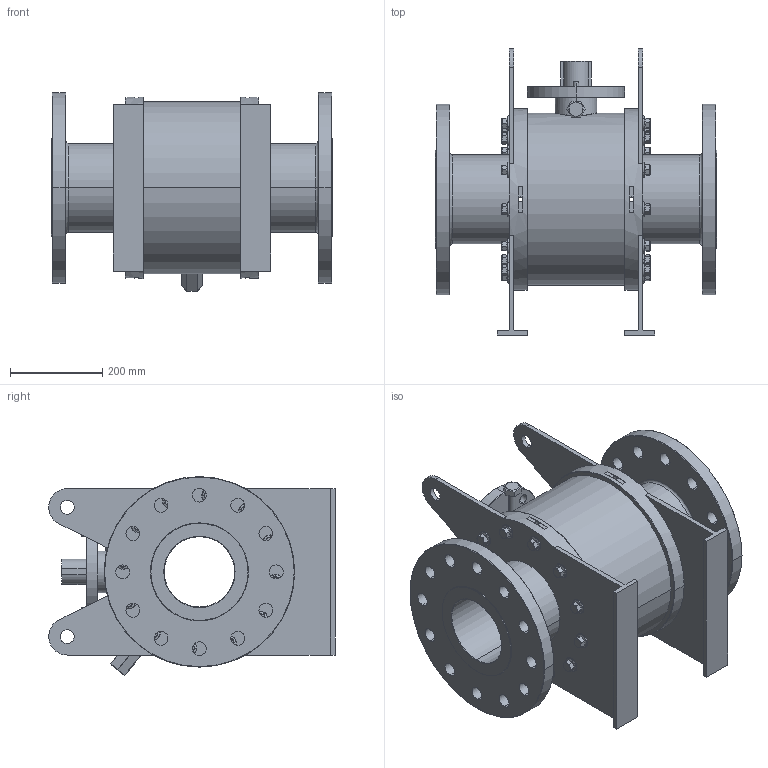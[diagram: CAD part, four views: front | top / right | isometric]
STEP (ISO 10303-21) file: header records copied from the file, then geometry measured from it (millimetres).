
FILE_DESCRIPTION (( 'STEP AP203' ), '1' );
FILE_NAME ('GB2_ANSI_900_6IN_TW.STEP', '2025-10-09T15:01:26', ( '' ), ( '' ), 'SwSTEP 2.0', 'SolidWorks 2025', '' );
FILE_SCHEMA (( 'CONFIG_CONTROL_DESIGN' ));
Length unit declared in the file: millimetre
Products named in the file (3): GB2_ANSI_2500_1500_ANSI_900_6IN; GB2_ANSI_900_6IN_TW; hex flange screw_am_B18.2.3.4M - Hex flange screw, M16 x 2.0 x 25 --25N
Assembly tree (25 placements, depth 2):
  GB2_ANSI_900_6IN_TW
    GB2_ANSI_2500_1500_ANSI_900_6IN
    hex flange screw_am_B18.2.3.4M - Hex flange screw, M16 x 2.0 x 25 --25N  x24
Bounding box: 610 x 620.12 x 430.23 mm (x, y, z)
Volume: 40044492.8 mm3; surface area: 2217935.9 mm2
Topology: 25 solids, 25 shells, 1033 faces, 2302 edges, 1376 vertices
Faces by surface type: plane 325, cone 270, cylinder 222, bspline 156, torus 54, sphere 6
Entity records: 13421 total; most frequent: CARTESIAN_POINT 3652, DIRECTION 1966, ORIENTED_EDGE 1744, EDGE_CURVE 872, AXIS2_PLACEMENT_3D 796, VERTEX_POINT 546, EDGE_LOOP 476, CIRCLE 420
